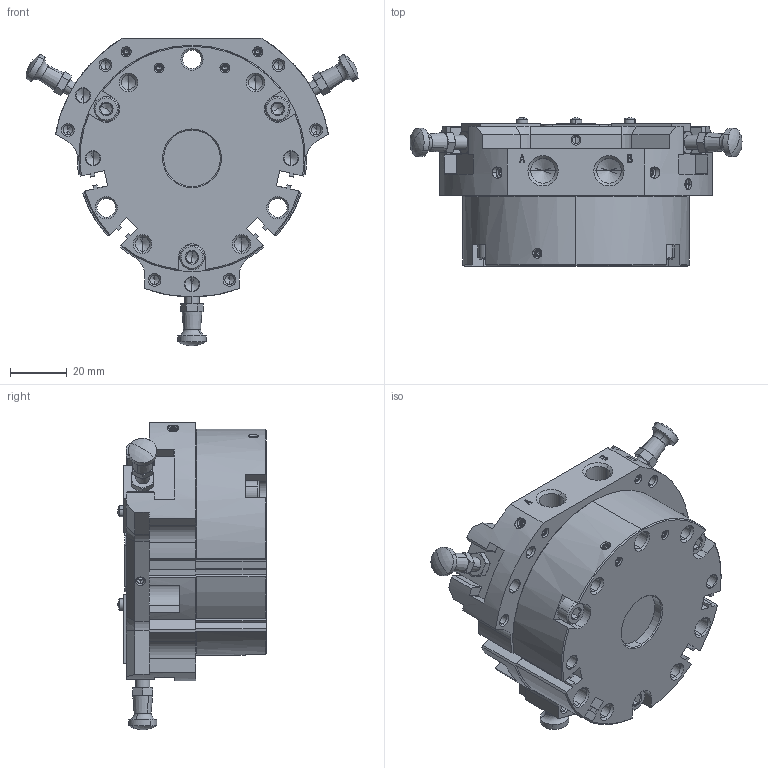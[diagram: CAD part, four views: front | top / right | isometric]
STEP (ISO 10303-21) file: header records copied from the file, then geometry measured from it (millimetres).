
FILE_DESCRIPTION (( 'STEP AP214' ), '1' );
FILE_NAME ('NTS309-QM-OC.STEP', '2025-04-17T06:35:33', ( '' ), ( '' ), 'SwSTEP 2.0', 'SolidWorks 2022', '' );
FILE_SCHEMA (( 'AUTOMOTIVE_DESIGN' ));
Length unit declared in the file: millimetre
Products named in the file (11): BODY^HP-NTS309-QM; S-SARA^HP-NTS309-QM; REAR BODY^HP-NTS309-QM; S-TOME1^HP-NTS309-QM; COVER^HP-NTS309-QM; KNOCK PIN^HP-NTS309-QM; S-TOME2^HP-NTS309-QM; MASTER JAW^HP-NTS309-QM; NTS309-QM-OC; INDEX PLUNGER^HP-NTS309-QM; BOLT^HP-NTS309-QM
Assembly tree (26 placements, depth 2):
  NTS309-QM-OC
    BODY^HP-NTS309-QM
    REAR BODY^HP-NTS309-QM
    COVER^HP-NTS309-QM
    MASTER JAW^HP-NTS309-QM  x3
    BOLT^HP-NTS309-QM  x3
    S-SARA^HP-NTS309-QM  x3
    S-TOME1^HP-NTS309-QM  x7
    S-TOME2^HP-NTS309-QM
    KNOCK PIN^HP-NTS309-QM  x3
    INDEX PLUNGER^HP-NTS309-QM  x3
Bounding box: 117.39 x 52.5 x 108.8 mm (x, y, z)
Volume: 231540.4 mm3; surface area: 72240.1 mm2
Topology: 23 solids, 35 shells, 2243 faces, 5987 edges, 3819 vertices
Faces by surface type: plane 1352, cone 403, cylinder 309, bspline 143, sphere 24, torus 12
Entity records: 64369 total; most frequent: CARTESIAN_POINT 17916, ORIENTED_EDGE 9692, DIRECTION 8373, EDGE_CURVE 4847, VECTOR 3761, LINE 3761, VERTEX_POINT 3161, AXIS2_PLACEMENT_3D 2306
